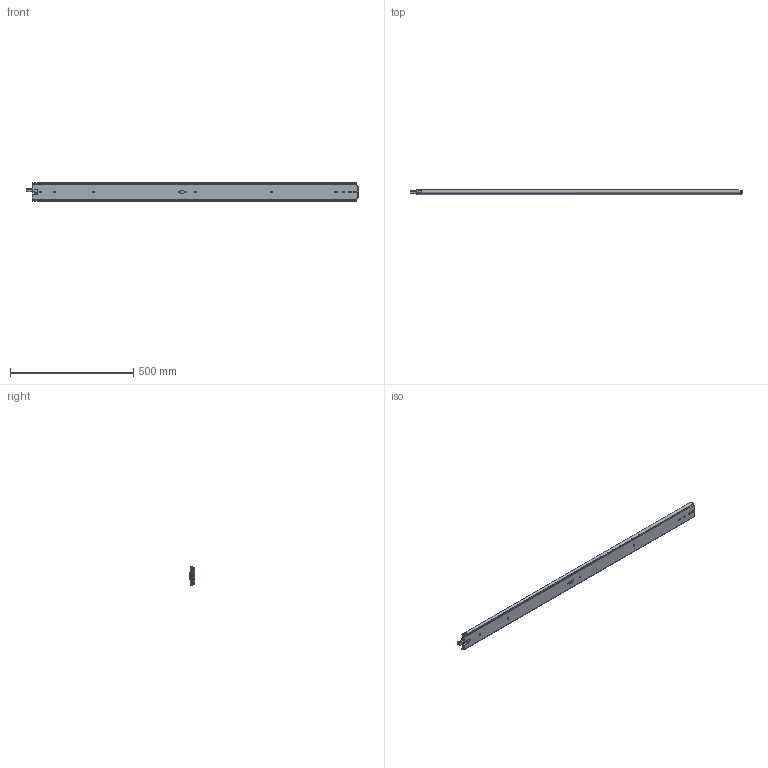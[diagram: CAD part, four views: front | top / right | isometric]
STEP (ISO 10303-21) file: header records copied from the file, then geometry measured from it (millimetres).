
FILE_DESCRIPTION((''),'2;1');
FILE_NAME('DG-76-3S-52YOU_ASM','2023-05-11T',('jishu015'),(''),'PRO/ENGINEER BY PARAMETRIC TECHNOLOGY CORPORATION, 2010280','PRO/ENGINEER BY PARAMETRIC TECHNOLOGY CORPORATION, 2010280','');
FILE_SCHEMA(('CONFIG_CONTROL_DESIGN'));
Products named in the file (29): KP-76-04WAIKE-1816_____________; 1076-WAIKEZIDANJIAO1621__; WAIK16______________ASM; 1076XIAOZHUTIAO-2251621__; 16_____________; 1076XIAOZHUTIAO-1751621___ASM; KP-76-04ZHONGGUI181611_; 76CHANGGUIZHONGGUIJIAO1621_____; 3X6WODIN16_____________; ZHONGGUIBAIKOU16_____________; PJ-76-30____________; PJ-76-03____________; 76-XIAOZHUJIA-11____________; GANGZHU-XIAO____________; ZHUJIA-XIAO_____________ASM; ZHONGGUI6______________ASM; KP-76-04NEIGUI1816_____________; PJ-76-31____________; DAOGPIAN16_____________; 1053-3SBANJ01____________; JIAO-11____________; 76XINSUOKOU____________; PJ-338____________; PJ-356____________; PJ-357____________; PJ-336____________; M4X4____________; NEIGUI16______________ASM; DG-76-3S-52YOU_ASM
Assembly tree (102 placements, depth 4):
  DG-76-3S-52YOU_ASM
    WAIK16______________ASM
      KP-76-04WAIKE-1816_____________
      1076-WAIKEZIDANJIAO1621__  x2
    1076XIAOZHUTIAO-1751621___ASM  x2
      1076XIAOZHUTIAO-2251621__
      16_____________
    ZHONGGUI6______________ASM
      KP-76-04ZHONGGUI181611_
      76CHANGGUIZHONGGUIJIAO1621_____
      3X6WODIN16_____________
      ZHONGGUIBAIKOU16_____________
      PJ-76-30____________
      PJ-76-03____________
      ZHUJIA-XIAO_____________ASM
        76-XIAOZHUJIA-11____________
        GANGZHU-XIAO____________  x50
    NEIGUI16______________ASM
      KP-76-04NEIGUI1816_____________
      PJ-76-31____________
      DAOGPIAN16_____________
      1053-3SBANJ01____________
      JIAO-11____________
      76XINSUOKOU____________
      PJ-338____________
      PJ-356____________
      PJ-357____________
      PJ-336____________
      M4X4____________
Bounding box: 1346.72 x 20.7 x 75.3 mm (x, y, z)
Volume: 874193.3 mm3; surface area: 842946.5 mm2
Topology: 122 solids, 122 shells, 2825 faces, 8663 edges, 5459 vertices
Faces by surface type: plane 1462, cylinder 1033, sphere 203, bspline 60, cone 28, extrusion 23, torus 16
Entity records: 89683 total; most frequent: CARTESIAN_POINT 23636, ORIENTED_EDGE 14546, DIRECTION 13029, EDGE_CURVE 7273, VERTEX_POINT 4739, AXIS2_PLACEMENT_3D 4510, VECTOR 4009, LINE 3986
